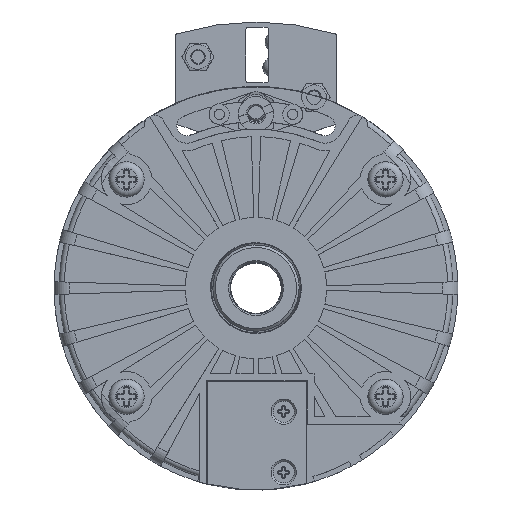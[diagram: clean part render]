
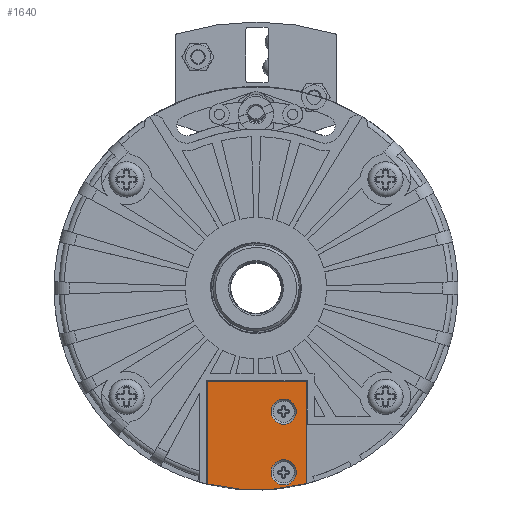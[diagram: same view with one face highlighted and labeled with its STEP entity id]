
A CAD part, top view. The second image highlights one B-rep face of the part: STEP entity #1640.
In plain terms, the highlighted planar face has unit normal (0, 0, 1).
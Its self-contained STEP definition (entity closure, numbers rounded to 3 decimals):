
#1640 = ADVANCED_FACE( '', ( #4585, #4586, #4587 ), #4588, .T. );
#4585 = FACE_OUTER_BOUND( '', #9434, .T. );
#4586 = FACE_BOUND( '', #9435, .T. );
#4587 = FACE_BOUND( '', #9436, .T. );
#4588 = PLANE( '', #9437 );
#9434 = EDGE_LOOP( '', ( #24472, #24473, #24474, #24475 ) );
#9435 = EDGE_LOOP( '', ( #24476 ) );
#9436 = EDGE_LOOP( '', ( #24477 ) );
#9437 = AXIS2_PLACEMENT_3D( '', #24478, #24479, #24480 );
#24472 = ORIENTED_EDGE( '', *, *, #36026, .T. );
#24473 = ORIENTED_EDGE( '', *, *, #36027, .T. );
#24474 = ORIENTED_EDGE( '', *, *, #36028, .T. );
#24475 = ORIENTED_EDGE( '', *, *, #36029, .T. );
#24476 = ORIENTED_EDGE( '', *, *, #36030, .T. );
#24477 = ORIENTED_EDGE( '', *, *, #36031, .T. );
#24478 = CARTESIAN_POINT( '', ( 0., 0., 25. ) );
#24479 = DIRECTION( '', ( 0., 0., 1. ) );
#24480 = DIRECTION( '', ( -1., 0., 0. ) );
#36026 = EDGE_CURVE( '', #41203, #41204, #41205, .T. );
#36027 = EDGE_CURVE( '', #41204, #41206, #41207, .T. );
#36028 = EDGE_CURVE( '', #41206, #41208, #41209, .T. );
#36029 = EDGE_CURVE( '', #41208, #41203, #41210, .T. );
#36030 = EDGE_CURVE( '', #41211, #41211, #41212, .T. );
#36031 = EDGE_CURVE( '', #41213, #41213, #41214, .T. );
#41203 = VERTEX_POINT( '', #49350 );
#41204 = VERTEX_POINT( '', #49351 );
#41205 = LINE( '', #49352, #49353 );
#41206 = VERTEX_POINT( '', #49354 );
#41207 = LINE( '', #49355, #49356 );
#41208 = VERTEX_POINT( '', #49357 );
#41209 = LINE( '', #49358, #49359 );
#41210 = CIRCLE( '', #49360, 40. );
#41211 = VERTEX_POINT( '', #49361 );
#41212 = CIRCLE( '', #49362, 2.5 );
#41213 = VERTEX_POINT( '', #49363 );
#41214 = CIRCLE( '', #49364, 2.5 );
#49350 = CARTESIAN_POINT( '', ( 10., -38.73, 25. ) );
#49351 = CARTESIAN_POINT( '', ( 10., -18.5, 25. ) );
#49352 = CARTESIAN_POINT( '', ( 10., -38.73, 25. ) );
#49353 = VECTOR( '', #61965, 1000. );
#49354 = CARTESIAN_POINT( '', ( -9.7, -18.5, 25. ) );
#49355 = CARTESIAN_POINT( '', ( 10., -18.5, 25. ) );
#49356 = VECTOR( '', #61966, 1000. );
#49357 = CARTESIAN_POINT( '', ( -9.7, -38.806, 25. ) );
#49358 = CARTESIAN_POINT( '', ( -9.7, -38.806, 25. ) );
#49359 = VECTOR( '', #61967, 1000. );
#49360 = AXIS2_PLACEMENT_3D( '', #61968, #61969, #61970 );
#49361 = CARTESIAN_POINT( '', ( 5.5, -39., 25. ) );
#49362 = AXIS2_PLACEMENT_3D( '', #61971, #61972, #61973 );
#49363 = CARTESIAN_POINT( '', ( 5.5, -27., 25. ) );
#49364 = AXIS2_PLACEMENT_3D( '', #61974, #61975, #61976 );
#61965 = DIRECTION( '', ( 0., 1., 0. ) );
#61966 = DIRECTION( '', ( -1., 0., 0. ) );
#61967 = DIRECTION( '', ( 0., -1., 0. ) );
#61968 = CARTESIAN_POINT( '', ( 0., 0., 25. ) );
#61969 = DIRECTION( '', ( 0., 0., 1. ) );
#61970 = DIRECTION( '', ( -1., 0., 0. ) );
#61971 = CARTESIAN_POINT( '', ( 5.5, -36.5, 25. ) );
#61972 = DIRECTION( '', ( 0., 0., -1. ) );
#61973 = DIRECTION( '', ( 0., -1., 0. ) );
#61974 = CARTESIAN_POINT( '', ( 5.5, -24.5, 25. ) );
#61975 = DIRECTION( '', ( 0., 0., -1. ) );
#61976 = DIRECTION( '', ( 0., -1., 0. ) );
